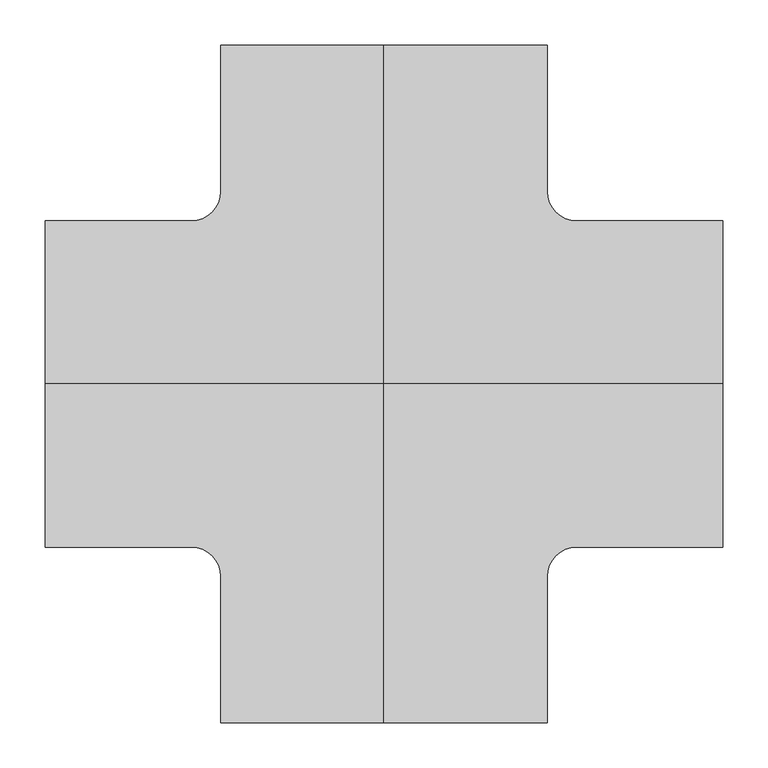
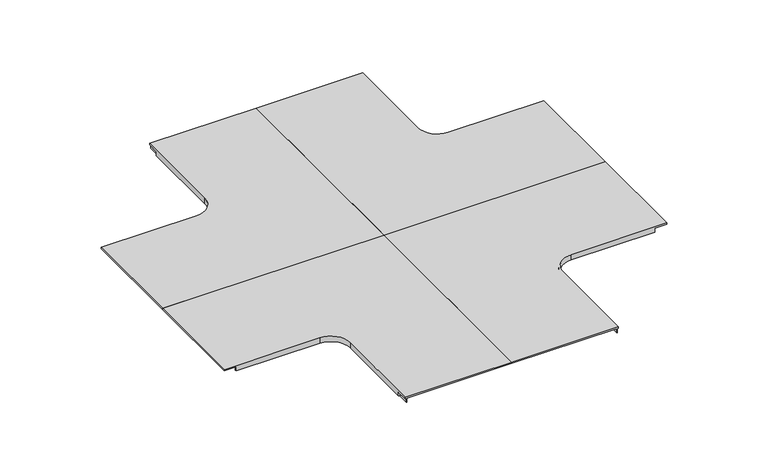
"""IFC4 building model written with IfcOpenShell, lengths in millimetres: cable carrier fitting geometry, CCT_Hyperline_FBTR-CRS-CVR_Крышка на ответвитель крестообразный пластиковый : Крышка на ответвитель крестообразный пластиковый."""

import ifcopenshell
import ifcopenshell.guid

model = None  # the IFC model being written
_history = None  # IfcOwnerHistory: only IFC2X3 demands one
_inside = {}  # id of a spatial element -> (the spatial element, [elements in it])
_under = {}  # id of a project, library or spatial element -> (it, [spatial elements below it])
_declared = {}  # id of a project -> (the project, [libraries it declares])
_typed = {}  # id of a type object -> (the type object, [elements of that type])
_made_of = {}  # id of a material, layer set ... -> (it, [elements and type objects made of it])


def new_model(schema):
    """Start an empty IFC model of exactly this schema.

    Asked for "IFC4X3", IfcOpenShell would pick the latest addendum, in which some entities
    have other attributes; the version numbers below select the first issue.
    IFC2X3 requires an IfcOwnerHistory on every rooted entity: one is made here for all.
    """
    global model, _history
    if schema == "IFC4X3":
        model = ifcopenshell.file(schema_version=(4, 3, 0, 0))
    else:
        model = ifcopenshell.file(schema=schema)
    _inside.clear()
    _under.clear()
    _declared.clear()
    _typed.clear()
    _made_of.clear()
    _history = None
    if model.schema == "IFC2X3":
        org = make("IfcOrganization", Name="unknown")
        user = make(
            "IfcPersonAndOrganization",
            ThePerson=make("IfcPerson", FamilyName="unknown"),
            TheOrganization=org,
        )
        app = make(
            "IfcApplication",
            ApplicationDeveloper=org,
            Version="unknown",
            ApplicationFullName="unknown",
            ApplicationIdentifier="unknown",
        )
        _history = make(
            "IfcOwnerHistory",
            OwningUser=user,
            OwningApplication=app,
            ChangeAction="ADDED",
            CreationDate=0,
        )
    return model


def make(cls, **values):
    """One entity of the class cls with the attributes given. An attribute that is None is left unset."""
    return model.create_entity(
        cls, **{name: value for name, value in values.items() if value is not None}
    )


def rooted(cls, **values):
    """An entity with a GlobalId (a new one), such as an element, a storey or a relation."""
    return make(cls, GlobalId=ifcopenshell.guid.new(), OwnerHistory=_history, **values)


def si_unit(unit_type, name, prefix=None):
    """IfcSIUnit, for example si_unit("LENGTHUNIT", "METRE", prefix="MILLI")."""
    return make("IfcSIUnit", UnitType=unit_type, Prefix=prefix, Name=name)


def assignment(units):
    """IfcUnitAssignment: the units of a project."""
    return None if units is None else make("IfcUnitAssignment", Units=units)


def point(xyz):
    """IfcCartesianPoint."""
    return None if xyz is None else make("IfcCartesianPoint", Coordinates=xyz)


def direction(xyz):
    """IfcDirection."""
    return None if xyz is None else make("IfcDirection", DirectionRatios=xyz)


def frame(location, z_axis=None, x_axis=None):
    """IfcAxis2Placement3D, a coordinate frame: its origin and axes. An axis left out is left unset."""
    return make(
        "IfcAxis2Placement3D",
        Location=point(location),
        Axis=direction(z_axis),
        RefDirection=direction(x_axis),
    )


def origin():
    """The frame at (0, 0, 0) with its axes left unset."""
    return frame((0.0, 0.0, 0.0))


def place(relative_to, where):
    """IfcLocalPlacement: puts the frame where relative to a parent placement (None: the world)."""
    return make(
        "IfcLocalPlacement", PlacementRelTo=relative_to, RelativePlacement=where
    )


def context(
    kind, dimensions, precision=None, world=None, true_north=None, identifier=None
):
    """IfcGeometricRepresentationContext, for example the 3D "Model" context."""
    return make(
        "IfcGeometricRepresentationContext",
        ContextIdentifier=identifier,
        ContextType=kind,
        CoordinateSpaceDimension=dimensions,
        Precision=precision,
        WorldCoordinateSystem=world,
        TrueNorth=true_north,
    )


def project(units=None, contexts=None):
    """IfcProject with its units and contexts."""
    return rooted(
        "IfcProject",
        Name="project",
        RepresentationContexts=contexts,
        UnitsInContext=assignment(units),
    )


def spatial(cls, under=None, at=None, **own):
    """A site, building, storey or space (cls), placed at a placement, below another one or the project."""
    s = rooted(cls, ObjectPlacement=at, **own)
    if under is not None:
        _under.setdefault(under.id(), (under, []))[1].append(s)
    return s


def polyline(points):
    """IfcPolyline through the points."""
    return make("IfcPolyline", Points=[point(p) for p in points])


def circle_curve(where, radius):
    """IfcCircle in the frame where."""
    return make("IfcCircle", Position=where, Radius=radius)


def shape(context_of_items, identifier, shape_type, items):
    """IfcShapeRepresentation: the items that make up one representation, for example the "Body"."""
    return make(
        "IfcShapeRepresentation",
        ContextOfItems=context_of_items,
        RepresentationIdentifier=identifier,
        RepresentationType=shape_type,
        Items=items,
    )


def source(mapping_origin, context_of_items, identifier, shape_type, items):
    """IfcRepresentationMap: a shape defined once, which mapped items show again and again."""
    return make(
        "IfcRepresentationMap",
        MappingOrigin=mapping_origin,
        MappedRepresentation=shape(context_of_items, identifier, shape_type, items),
    )


def transform(
    local_origin,
    x_axis=None,
    y_axis=None,
    z_axis=None,
    scale=None,
    scale2=None,
    scale3=None,
    uniform=True,
):
    """IfcCartesianTransformationOperator3D, or its non-uniform kind. x_axis, y_axis, z_axis: its Axis1, 2, 3."""
    if uniform:
        return make(
            "IfcCartesianTransformationOperator3D",
            Axis1=direction(x_axis),
            Axis2=direction(y_axis),
            LocalOrigin=point(local_origin),
            Scale=scale,
            Axis3=direction(z_axis),
        )
    return make(
        "IfcCartesianTransformationOperator3DnonUniform",
        Axis1=direction(x_axis),
        Axis2=direction(y_axis),
        LocalOrigin=point(local_origin),
        Scale=scale,
        Axis3=direction(z_axis),
        Scale2=scale2,
        Scale3=scale3,
    )


def mapped(mapping_source, mapping_target):
    """IfcMappedItem: shows the shape of a source again, moved by a transform."""
    return make(
        "IfcMappedItem", MappingSource=mapping_source, MappingTarget=mapping_target
    )


def made_of(thing, what):
    """Note that an element or type object is made of a material, layer set ...; save() writes the relation."""
    if what is not None:
        _made_of.setdefault(what.id(), (what, []))[1].append(thing)
    return thing


def element(
    cls,
    number,
    at=None,
    inside=None,
    cuts=None,
    type_object=None,
    material=None,
    context=None,
    identifier="Body",
    shape_type=None,
    held_by="IfcProductDefinitionShape",
    body=None,
    shapes=None,
    **own,
):
    """One element of the class cls, such as IfcWall. Its Tag is "e" and its number.

    at: its placement. inside: the storey or other place that contains it. cuts: it is an
    opening in that element (IfcRelVoidsElement). A single representation is given by context,
    identifier, shape_type and body (its items); several are given by shapes. held_by: the class
    of the entity that holds the representations. save() writes the other relations.
    """
    e = rooted(cls, Tag="e%d" % number, ObjectPlacement=at, **own)
    if body is not None:
        shapes = [shape(context, identifier, shape_type, body)]
    if shapes is not None:
        e.Representation = make(held_by, Representations=shapes)
    if inside is not None:
        _inside.setdefault(inside.id(), (inside, []))[1].append(e)
    if cuts is not None:
        rooted(
            "IfcRelVoidsElement", RelatingBuildingElement=cuts, RelatedOpeningElement=e
        )
    if type_object is not None:
        _typed.setdefault(type_object.id(), (type_object, []))[1].append(e)
    return made_of(e, material)


def aggregate(whole, parts):
    """IfcRelAggregates: a whole, such as a stair, and the parts it consists of."""
    return rooted("IfcRelAggregates", RelatingObject=whole, RelatedObjects=parts)


def save(model, path):
    """Write the relations noted so far, then the file.

    IfcRelAggregates (storeys below a building ...), IfcRelContainedInSpatialStructure (elements
    in a storey), IfcRelDefinesByType, IfcRelAssociatesMaterial and IfcRelDeclares: one each for
    every whole, place, type object, material and project.
    """
    for whole, parts in _under.values():
        aggregate(whole, parts)
    for where, things in _inside.values():
        rooted(
            "IfcRelContainedInSpatialStructure",
            RelatedElements=things,
            RelatingStructure=where,
        )
    for kind, things in _typed.values():
        rooted("IfcRelDefinesByType", RelatedObjects=things, RelatingType=kind)
    for what, things in _made_of.values():
        rooted("IfcRelAssociatesMaterial", RelatedObjects=things, RelatingMaterial=what)
    for by, libraries in _declared.values():
        rooted("IfcRelDeclares", RelatingContext=by, RelatedDefinitions=libraries)
    model.write(path)


def plane_surface(at):
    """IfcPlane: the flat surface through the origin of the frame at, square to its z axis."""
    return make("IfcPlane", Position=at)


def cylinder_surface(at, radius):
    """IfcCylindricalSurface: all points at the distance radius from the z axis of the frame at."""
    return make("IfcCylindricalSurface", Position=at, Radius=radius)


def revolved_surface(curve, axis_point, axis_direction):
    """IfcSurfaceOfRevolution: the curve turned about the line through axis_point along axis_direction."""
    return make(
        "IfcSurfaceOfRevolution",
        SweptCurve=make("IfcArbitraryOpenProfileDef", ProfileType="CURVE", Curve=curve),
        AxisPosition=make("IfcAxis1Placement", Location=point(axis_point), Axis=direction(axis_direction)),
    )


def advanced_brep(points, edges, surfaces, faces):
    """IfcAdvancedBrep: a solid bounded by faces that lie on surfaces and meet in shared edges.

    An edge is (start, end): straight between two places in points (the first is 0);
    or (start, end, curve); or (start, end, curve, False) where it runs against its curve.
    A face is (place in surfaces, loops), or (place, loops, False) where it looks against
    its surface's normal. A loop lists edges by number (the first is 1), with a minus sign
    where the edge is run from its end to its start. The first loop is the outer one.
    """
    corners = [point(p) for p in points]
    vertices = [make("IfcVertexPoint", VertexGeometry=c) for c in corners]
    made = []
    for start, end, *more in edges:
        made.append(
            make(
                "IfcEdgeCurve",
                EdgeStart=vertices[start],
                EdgeEnd=vertices[end],
                EdgeGeometry=more[0] if more else make("IfcPolyline", Points=[corners[start], corners[end]]),
                SameSense=more[1] if len(more) > 1 else True,
            )
        )
    hull = []
    for where, loops, *sense in faces:
        bounds = []
        for j, loop in enumerate(loops):
            ring = [make("IfcOrientedEdge", EdgeElement=made[abs(k) - 1], Orientation=k > 0) for k in loop]
            bounds.append(
                make(
                    "IfcFaceOuterBound" if j == 0 else "IfcFaceBound",
                    Bound=make("IfcEdgeLoop", EdgeList=ring),
                    Orientation=True,
                )
            )
        hull.append(make("IfcAdvancedFace", Bounds=bounds, FaceSurface=surfaces[where], SameSense=sense[0] if sense else True))
    return make("IfcAdvancedBrep", Outer=make("IfcClosedShell", CfsFaces=hull))


def cable_carrier_fitting_a9126de9(model_context):
    return source(origin(), model_context, "Body", "AdvancedBrep", [
        advanced_brep(
        [(375.0, -180.54, 52.54), (375.0, -180.54, 50.0), (375.0, 0.0, 50.0), (375.0, 0.0, 52.54), (213.0, -178.0, 50.0), (354.6504105, -178.0, 50.0), (354.6504105, -178.0, 43.0), (213.0, -178.0, 43.0), (354.6504105, -180.54, 43.0), (213.0, -180.54, 43.0), (180.54, -213.0, 43.0), (180.54, -355.0, 43.0), (178.46, -355.0, 43.0), (178.46, -375.0, 43.0), (178.0, -375.0, 43.0), (178.0, -213.0, 43.0), (213.0, -180.54, 52.54), (354.6504105, -180.54, 50.0), (178.0, -213.0, 50.0), (180.54, -213.0, 52.54), (0.0, -375.0, 52.54), (0.0, -375.0, 50.0), (178.0, -375.0, 50.0), (178.46, -375.0, 50.0), (180.54, -375.0, 50.0), (180.54, -375.0, 52.54), (180.54, -355.0, 50.0), (0.0, 0.0, 52.54), (0.0, 0.0, 50.0), (178.46, -355.0, 50.0)],
        [
            (0, 1),
            (1, 2),
            (2, 3),
            (3, 0),
            (4, 5),
            (5, 6),
            (6, 7),
            (7, 4),
            (6, 8),
            (8, 9),
            (9, 10, circle_curve(frame((213.0, -213.0, 43.0), z_axis=(0.0, 0.0, 1.0), x_axis=(0.0, 1.0, 0.0)), 32.46)),
            (10, 11),
            (11, 12),
            (12, 13),
            (13, 14),
            (14, 15),
            (15, 7, circle_curve(frame((213.0, -213.0, 43.0), z_axis=(0.0, 0.0, -1.0), x_axis=(0.0, 1.0, 0.0)), 35.0)),
            (16, 9),
            (8, 17),
            (17, 1),
            (0, 16),
            (15, 18),
            (18, 4, circle_curve(frame((213.0, -213.0, 50.0), z_axis=(0.0, 0.0, -1.0), x_axis=(0.0, 1.0, 0.0)), 35.0)),
            (19, 10),
            (16, 19, circle_curve(frame((213.0, -213.0, 52.54), z_axis=(0.0, 0.0, 1.0), x_axis=(0.0, 1.0, 0.0)), 32.46)),
            (20, 21),
            (21, 22),
            (22, 14),
            (13, 23),
            (23, 24),
            (24, 25),
            (25, 20),
            (22, 18),
            (24, 26),
            (26, 11),
            (19, 25),
            (3, 27),
            (27, 20),
            (2, 28),
            (28, 27),
            (17, 5),
            (21, 28),
            (26, 29),
            (29, 12),
            (29, 23),
        ],
        [
            plane_surface(frame((375.0, -178.0, 25.0), z_axis=(1.0, 0.0, 0.0), x_axis=(0.0, 0.0, 1.0))),
            plane_surface(frame((375.0, -178.0, 50.0), z_axis=(0.0, 1.0, 0.0), x_axis=(-1.0, 0.0, 0.0))),
            plane_surface(frame((375.0, -178.0, 43.0), z_axis=(0.0, 0.0, -1.0), x_axis=(-1.0, 0.0, 0.0))),
            plane_surface(frame((375.0, -180.54, 43.0), z_axis=(0.0, -1.0, 0.0), x_axis=(-1.0, 0.0, 0.0))),
            cylinder_surface(frame((213.0, -213.0, 25.0), z_axis=(0.0, 0.0, -1.0), x_axis=(0.0, 1.0, 0.0)), 35.0),
            revolved_surface(polyline([(213.0, -180.54, 43.0), (213.0, -180.54, 52.54)]), (213.0, -213.0, 25.0), (0.0, 0.0, -1.0)),
            plane_surface(frame((178.0, -375.0, 25.0), z_axis=(0.0, -1.0, 0.0), x_axis=(0.0, 0.0, 1.0))),
            plane_surface(frame((178.0, -213.0, 50.0), z_axis=(-1.0, 0.0, 0.0), x_axis=(0.0, -1.0, 0.0))),
            plane_surface(frame((180.54, -213.0, 43.0), z_axis=(1.0, 0.0, 0.0), x_axis=(0.0, -1.0, 0.0))),
            plane_surface(frame((375.0, -180.54, 52.54), z_axis=(0.0, 0.0, 1.0), x_axis=(-1.0, 0.0, 0.0))),
            plane_surface(frame((375.0, 0.0, 52.54), z_axis=(0.0, 1.0, 0.0), x_axis=(-1.0, 0.0, 0.0))),
            plane_surface(frame((375.0, 0.0, 50.0), z_axis=(0.0, 0.0, -1.0), x_axis=(-1.0, 0.0, 0.0))),
            plane_surface(frame((0.0, -213.0, 52.54), z_axis=(-1.0, 0.0, 0.0), x_axis=(0.0, -1.0, 0.0))),
            plane_surface(frame((354.6504105, -180.54, 43.0), z_axis=(1.0, 0.0, 0.0), x_axis=(0.0, 1.0, 0.0))),
            plane_surface(frame((178.46, -355.0, 43.0), z_axis=(0.0, -1.0, 0.0), x_axis=(1.0, 0.0, 0.0))),
            plane_surface(frame((178.46, -375.0, 50.0), z_axis=(1.0, 0.0, 0.0), x_axis=(0.0, -1.0, 0.0))),
            plane_surface(frame((178.46, -355.0, 50.0), z_axis=(0.0, 0.0, -1.0), x_axis=(1.0, 0.0, 0.0))),
        ],
        [
            (0, [[1, 2, 3, 4]]),
            (1, [[5, 6, 7, 8]]),
            (2, [[-7, 9, 10, 11, 12, 13, 14, 15, 16, 17]]),
            (3, [[18, -10, 19, 20, -1, 21]]),
            (4, [[-8, -17, 22, 23]]),
            (5, [[24, -11, -18, 25]]),
            (6, [[26, 27, 28, -15, 29, 30, 31, 32]]),
            (7, [[-22, -16, -28, 33]]),
            (8, [[-31, 34, 35, -12, -24, 36]]),
            (9, [[37, 38, -32, -36, -25, -21, -4]]),
            (10, [[39, 40, -37, -3]]),
            (11, [[-2, -20, 41, -5, -23, -33, -27, 42, -39]]),
            (12, [[-40, -42, -26, -38]]),
            (13, [[-19, -9, -6, -41]]),
            (14, [[-13, -35, 43, 44]]),
            (15, [[45, -29, -14, -44]]),
            (16, [[-43, -34, -30, -45]]),
        ],
    ),
        advanced_brep(
        [(375.0, 180.54, 52.54), (375.0, 0.0, 52.54), (375.0, 0.0, 50.0), (375.0, 180.54, 50.0), (213.0, 178.0, 50.0), (213.0, 178.0, 43.0), (354.6504105, 178.0, 43.0), (354.6504105, 178.0, 50.0), (178.0, 213.0, 43.0), (178.0, 375.0, 43.0), (178.46, 375.0, 43.0), (178.46, 355.0, 43.0), (180.54, 355.0, 43.0), (180.54, 213.0, 43.0), (213.0, 180.54, 43.0), (354.6504105, 180.54, 43.0), (213.0, 180.54, 52.54), (354.6504105, 180.54, 50.0), (178.0, 213.0, 50.0), (180.54, 213.0, 52.54), (0.0, 375.0, 52.54), (180.54, 375.0, 52.54), (180.54, 375.0, 50.0), (178.46, 375.0, 50.0), (178.0, 375.0, 50.0), (0.0, 375.0, 50.0), (180.54, 355.0, 50.0), (0.0, 0.0, 52.54), (0.0, 0.0, 50.0), (178.46, 355.0, 50.0)],
        [
            (0, 1),
            (1, 2),
            (2, 3),
            (3, 0),
            (4, 5),
            (5, 6),
            (6, 7),
            (7, 4),
            (5, 8, circle_curve(frame((213.0, 213.0, 43.0), z_axis=(0.0, 0.0, -1.0), x_axis=(0.0, -1.0, 0.0)), 35.0)),
            (8, 9),
            (9, 10),
            (10, 11),
            (11, 12),
            (12, 13),
            (13, 14, circle_curve(frame((213.0, 213.0, 43.0), z_axis=(0.0, 0.0, 1.0), x_axis=(0.0, -1.0, 0.0)), 32.46)),
            (14, 15),
            (15, 6),
            (16, 0),
            (3, 17),
            (17, 15),
            (14, 16),
            (4, 18, circle_curve(frame((213.0, 213.0, 50.0), z_axis=(0.0, 0.0, -1.0), x_axis=(0.0, -1.0, 0.0)), 35.0)),
            (18, 8),
            (19, 16, circle_curve(frame((213.0, 213.0, 52.54), z_axis=(0.0, 0.0, 1.0), x_axis=(0.0, -1.0, 0.0)), 32.46)),
            (13, 19),
            (20, 21),
            (21, 22),
            (22, 23),
            (23, 10),
            (9, 24),
            (24, 25),
            (25, 20),
            (18, 24),
            (21, 19),
            (12, 26),
            (26, 22),
            (20, 27),
            (27, 1),
            (27, 28),
            (28, 2),
            (28, 25),
            (7, 17),
            (11, 29),
            (29, 26),
            (23, 29),
        ],
        [
            plane_surface(frame((375.0, 178.0, 25.0), z_axis=(1.0, 0.0, 0.0), x_axis=(0.0, 0.0, 1.0))),
            plane_surface(frame((375.0, 178.0, 50.0), z_axis=(0.0, -1.0, 0.0), x_axis=(-1.0, 0.0, 0.0))),
            plane_surface(frame((375.0, 178.0, 43.0), z_axis=(0.0, 0.0, -1.0), x_axis=(-1.0, 0.0, 0.0))),
            plane_surface(frame((375.0, 180.54, 43.0), z_axis=(0.0, 1.0, 0.0), x_axis=(-1.0, 0.0, 0.0))),
            cylinder_surface(frame((213.0, 213.0, 25.0), z_axis=(0.0, 0.0, -1.0), x_axis=(0.0, -1.0, 0.0)), 35.0),
            revolved_surface(polyline([(213.0, 180.54, 43.0), (213.0, 180.54, 52.54)]), (213.0, 213.0, 25.0), (0.0, 0.0, -1.0)),
            plane_surface(frame((178.0, 375.0, 25.0), z_axis=(0.0, 1.0, 0.0), x_axis=(0.0, 0.0, 1.0))),
            plane_surface(frame((178.0, 213.0, 50.0), z_axis=(-1.0, 0.0, 0.0), x_axis=(0.0, 1.0, 0.0))),
            plane_surface(frame((180.54, 213.0, 43.0), z_axis=(1.0, 0.0, 0.0), x_axis=(0.0, 1.0, 0.0))),
            plane_surface(frame((375.0, 180.54, 52.54), z_axis=(0.0, 0.0, 1.0), x_axis=(-1.0, 0.0, 0.0))),
            plane_surface(frame((375.0, 0.0, 52.54), z_axis=(0.0, -1.0, 0.0), x_axis=(-1.0, 0.0, 0.0))),
            plane_surface(frame((375.0, 0.0, 50.0), z_axis=(0.0, 0.0, -1.0), x_axis=(-1.0, 0.0, 0.0))),
            plane_surface(frame((0.0, 213.0, 52.54), z_axis=(-1.0, 0.0, 0.0), x_axis=(0.0, 1.0, 0.0))),
            plane_surface(frame((354.6504105, 180.54, 43.0), z_axis=(1.0, 0.0, 0.0), x_axis=(0.0, -1.0, 0.0))),
            plane_surface(frame((178.46, 355.0, 43.0), z_axis=(0.0, 1.0, 0.0), x_axis=(1.0, 0.0, 0.0))),
            plane_surface(frame((178.46, 375.0, 50.0), z_axis=(1.0, 0.0, 0.0), x_axis=(0.0, 1.0, 0.0))),
            plane_surface(frame((178.46, 355.0, 50.0), z_axis=(0.0, 0.0, -1.0), x_axis=(1.0, 0.0, 0.0))),
        ],
        [
            (0, [[1, 2, 3, 4]]),
            (1, [[5, 6, 7, 8]]),
            (2, [[9, 10, 11, 12, 13, 14, 15, 16, 17, -6]]),
            (3, [[18, -4, 19, 20, -16, 21]]),
            (4, [[22, 23, -9, -5]]),
            (5, [[24, -21, -15, 25]]),
            (6, [[26, 27, 28, 29, -11, 30, 31, 32]]),
            (7, [[33, -30, -10, -23]]),
            (8, [[34, -25, -14, 35, 36, -27]]),
            (9, [[-1, -18, -24, -34, -26, 37, 38]]),
            (10, [[-2, -38, 39, 40]]),
            (11, [[-40, 41, -31, -33, -22, -8, 42, -19, -3]]),
            (12, [[-37, -32, -41, -39]]),
            (13, [[-42, -7, -17, -20]]),
            (14, [[43, 44, -35, -13]]),
            (15, [[-43, -12, -29, 45]]),
            (16, [[-45, -28, -36, -44]]),
        ],
    ),
        advanced_brep(
        [(-375.0, -180.54, 52.54), (-375.0, 0.0, 52.54), (-375.0, 0.0, 50.0), (-375.0, -180.54, 50.0), (-213.0, -178.0, 50.0), (-213.0, -178.0, 43.0), (-354.6504105, -178.0, 43.0), (-354.6504105, -178.0, 50.0), (-178.0, -213.0, 43.0), (-178.0, -375.0, 43.0), (-178.46, -375.0, 43.0), (-178.46, -355.0, 43.0), (-180.54, -355.0, 43.0), (-180.54, -213.0, 43.0), (-213.0, -180.54, 43.0), (-354.6504105, -180.54, 43.0), (-213.0, -180.54, 52.54), (-354.6504105, -180.54, 50.0), (-178.0, -213.0, 50.0), (-180.54, -213.0, 52.54), (0.0, -375.0, 52.54), (-180.54, -375.0, 52.54), (-180.54, -375.0, 50.0), (-178.46, -375.0, 50.0), (-178.0, -375.0, 50.0), (0.0, -375.0, 50.0), (-180.54, -355.0, 50.0), (0.0, 0.0, 52.54), (0.0, 0.0, 50.0), (-178.46, -355.0, 50.0)],
        [
            (0, 1),
            (1, 2),
            (2, 3),
            (3, 0),
            (4, 5),
            (5, 6),
            (6, 7),
            (7, 4),
            (5, 8, circle_curve(frame((-213.0, -213.0, 43.0), z_axis=(0.0, 0.0, -1.0), x_axis=(0.0, 1.0, 0.0)), 35.0)),
            (8, 9),
            (9, 10),
            (10, 11),
            (11, 12),
            (12, 13),
            (13, 14, circle_curve(frame((-213.0, -213.0, 43.0), z_axis=(0.0, 0.0, 1.0), x_axis=(0.0, 1.0, 0.0)), 32.46)),
            (14, 15),
            (15, 6),
            (16, 0),
            (3, 17),
            (17, 15),
            (14, 16),
            (4, 18, circle_curve(frame((-213.0, -213.0, 50.0), z_axis=(0.0, 0.0, -1.0), x_axis=(0.0, 1.0, 0.0)), 35.0)),
            (18, 8),
            (19, 16, circle_curve(frame((-213.0, -213.0, 52.54), z_axis=(0.0, 0.0, 1.0), x_axis=(0.0, 1.0, 0.0)), 32.46)),
            (13, 19),
            (20, 21),
            (21, 22),
            (22, 23),
            (23, 10),
            (9, 24),
            (24, 25),
            (25, 20),
            (18, 24),
            (21, 19),
            (12, 26),
            (26, 22),
            (20, 27),
            (27, 1),
            (27, 28),
            (28, 2),
            (28, 25),
            (7, 17),
            (11, 29),
            (29, 26),
            (23, 29),
        ],
        [
            plane_surface(frame((-375.0, -178.0, 25.0), z_axis=(-1.0, 0.0, 0.0), x_axis=(0.0, 0.0, 1.0))),
            plane_surface(frame((-375.0, -178.0, 50.0), z_axis=(0.0, 1.0, 0.0), x_axis=(1.0, 0.0, 0.0))),
            plane_surface(frame((-375.0, -178.0, 43.0), z_axis=(0.0, 0.0, -1.0), x_axis=(1.0, 0.0, 0.0))),
            plane_surface(frame((-375.0, -180.54, 43.0), z_axis=(0.0, -1.0, 0.0), x_axis=(1.0, 0.0, 0.0))),
            cylinder_surface(frame((-213.0, -213.0, 25.0), z_axis=(0.0, 0.0, -1.0), x_axis=(0.0, 1.0, 0.0)), 35.0),
            revolved_surface(polyline([(-213.0, -180.54, 43.0), (-213.0, -180.54, 52.54)]), (-213.0, -213.0, 25.0), (0.0, 0.0, -1.0)),
            plane_surface(frame((-178.0, -375.0, 25.0), z_axis=(0.0, -1.0, 0.0), x_axis=(0.0, 0.0, 1.0))),
            plane_surface(frame((-178.0, -213.0, 50.0), z_axis=(1.0, 0.0, 0.0), x_axis=(0.0, -1.0, 0.0))),
            plane_surface(frame((-180.54, -213.0, 43.0), z_axis=(-1.0, 0.0, 0.0), x_axis=(0.0, -1.0, 0.0))),
            plane_surface(frame((-375.0, -180.54, 52.54), z_axis=(0.0, 0.0, 1.0), x_axis=(1.0, 0.0, 0.0))),
            plane_surface(frame((-375.0, 0.0, 52.54), z_axis=(0.0, 1.0, 0.0), x_axis=(1.0, 0.0, 0.0))),
            plane_surface(frame((-375.0, 0.0, 50.0), z_axis=(0.0, 0.0, -1.0), x_axis=(1.0, 0.0, 0.0))),
            plane_surface(frame((0.0, -213.0, 52.54), z_axis=(1.0, 0.0, 0.0), x_axis=(0.0, -1.0, 0.0))),
            plane_surface(frame((-354.6504105, -180.54, 43.0), z_axis=(-1.0, 0.0, 0.0), x_axis=(0.0, 1.0, 0.0))),
            plane_surface(frame((-178.46, -355.0, 43.0), z_axis=(0.0, -1.0, 0.0), x_axis=(-1.0, 0.0, 0.0))),
            plane_surface(frame((-178.46, -375.0, 50.0), z_axis=(-1.0, 0.0, 0.0), x_axis=(0.0, -1.0, 0.0))),
            plane_surface(frame((-178.46, -355.0, 50.0), z_axis=(0.0, 0.0, -1.0), x_axis=(-1.0, 0.0, 0.0))),
        ],
        [
            (0, [[1, 2, 3, 4]]),
            (1, [[5, 6, 7, 8]]),
            (2, [[9, 10, 11, 12, 13, 14, 15, 16, 17, -6]]),
            (3, [[18, -4, 19, 20, -16, 21]]),
            (4, [[22, 23, -9, -5]]),
            (5, [[24, -21, -15, 25]]),
            (6, [[26, 27, 28, 29, -11, 30, 31, 32]]),
            (7, [[33, -30, -10, -23]]),
            (8, [[34, -25, -14, 35, 36, -27]]),
            (9, [[-1, -18, -24, -34, -26, 37, 38]]),
            (10, [[-2, -38, 39, 40]]),
            (11, [[-40, 41, -31, -33, -22, -8, 42, -19, -3]]),
            (12, [[-37, -32, -41, -39]]),
            (13, [[-42, -7, -17, -20]]),
            (14, [[43, 44, -35, -13]]),
            (15, [[-43, -12, -29, 45]]),
            (16, [[-45, -28, -36, -44]]),
        ],
    ),
        advanced_brep(
        [(-375.0, 180.54, 52.54), (-375.0, 180.54, 50.0), (-375.0, 0.0, 50.0), (-375.0, 0.0, 52.54), (-213.0, 178.0, 50.0), (-354.6504105, 178.0, 50.0), (-354.6504105, 178.0, 43.0), (-213.0, 178.0, 43.0), (-354.6504105, 180.54, 43.0), (-213.0, 180.54, 43.0), (-180.54, 213.0, 43.0), (-180.54, 355.0, 43.0), (-178.46, 355.0, 43.0), (-178.46, 375.0, 43.0), (-178.0, 375.0, 43.0), (-178.0, 213.0, 43.0), (-213.0, 180.54, 52.54), (-354.6504105, 180.54, 50.0), (-178.0, 213.0, 50.0), (-180.54, 213.0, 52.54), (0.0, 375.0, 52.54), (0.0, 375.0, 50.0), (-178.0, 375.0, 50.0), (-178.46, 375.0, 50.0), (-180.54, 375.0, 50.0), (-180.54, 375.0, 52.54), (-180.54, 355.0, 50.0), (0.0, 0.0, 52.54), (0.0, 0.0, 50.0), (-178.46, 355.0, 50.0)],
        [
            (0, 1),
            (1, 2),
            (2, 3),
            (3, 0),
            (4, 5),
            (5, 6),
            (6, 7),
            (7, 4),
            (6, 8),
            (8, 9),
            (9, 10, circle_curve(frame((-213.0, 213.0, 43.0), z_axis=(0.0, 0.0, 1.0), x_axis=(0.0, -1.0, 0.0)), 32.46)),
            (10, 11),
            (11, 12),
            (12, 13),
            (13, 14),
            (14, 15),
            (15, 7, circle_curve(frame((-213.0, 213.0, 43.0), z_axis=(0.0, 0.0, -1.0), x_axis=(0.0, -1.0, 0.0)), 35.0)),
            (16, 9),
            (8, 17),
            (17, 1),
            (0, 16),
            (15, 18),
            (18, 4, circle_curve(frame((-213.0, 213.0, 50.0), z_axis=(0.0, 0.0, -1.0), x_axis=(0.0, -1.0, 0.0)), 35.0)),
            (19, 10),
            (16, 19, circle_curve(frame((-213.0, 213.0, 52.54), z_axis=(0.0, 0.0, 1.0), x_axis=(0.0, -1.0, 0.0)), 32.46)),
            (20, 21),
            (21, 22),
            (22, 14),
            (13, 23),
            (23, 24),
            (24, 25),
            (25, 20),
            (22, 18),
            (24, 26),
            (26, 11),
            (19, 25),
            (3, 27),
            (27, 20),
            (2, 28),
            (28, 27),
            (17, 5),
            (21, 28),
            (26, 29),
            (29, 12),
            (29, 23),
        ],
        [
            plane_surface(frame((-375.0, 178.0, 25.0), z_axis=(-1.0, 0.0, 0.0), x_axis=(0.0, 0.0, 1.0))),
            plane_surface(frame((-375.0, 178.0, 50.0), z_axis=(0.0, -1.0, 0.0), x_axis=(1.0, 0.0, 0.0))),
            plane_surface(frame((-375.0, 178.0, 43.0), z_axis=(0.0, 0.0, -1.0), x_axis=(1.0, 0.0, 0.0))),
            plane_surface(frame((-375.0, 180.54, 43.0), z_axis=(0.0, 1.0, 0.0), x_axis=(1.0, 0.0, 0.0))),
            cylinder_surface(frame((-213.0, 213.0, 25.0), z_axis=(0.0, 0.0, -1.0), x_axis=(0.0, -1.0, 0.0)), 35.0),
            revolved_surface(polyline([(-213.0, 180.54, 43.0), (-213.0, 180.54, 52.54)]), (-213.0, 213.0, 25.0), (0.0, 0.0, -1.0)),
            plane_surface(frame((-178.0, 375.0, 25.0), z_axis=(0.0, 1.0, 0.0), x_axis=(0.0, 0.0, 1.0))),
            plane_surface(frame((-178.0, 213.0, 50.0), z_axis=(1.0, 0.0, 0.0), x_axis=(0.0, 1.0, 0.0))),
            plane_surface(frame((-180.54, 213.0, 43.0), z_axis=(-1.0, 0.0, 0.0), x_axis=(0.0, 1.0, 0.0))),
            plane_surface(frame((-375.0, 180.54, 52.54), z_axis=(0.0, 0.0, 1.0), x_axis=(1.0, 0.0, 0.0))),
            plane_surface(frame((-375.0, 0.0, 52.54), z_axis=(0.0, -1.0, 0.0), x_axis=(1.0, 0.0, 0.0))),
            plane_surface(frame((-375.0, 0.0, 50.0), z_axis=(0.0, 0.0, -1.0), x_axis=(1.0, 0.0, 0.0))),
            plane_surface(frame((0.0, 213.0, 52.54), z_axis=(1.0, 0.0, 0.0), x_axis=(0.0, 1.0, 0.0))),
            plane_surface(frame((-354.6504105, 180.54, 43.0), z_axis=(-1.0, 0.0, 0.0), x_axis=(0.0, -1.0, 0.0))),
            plane_surface(frame((-178.46, 355.0, 43.0), z_axis=(0.0, 1.0, 0.0), x_axis=(-1.0, 0.0, 0.0))),
            plane_surface(frame((-178.46, 375.0, 50.0), z_axis=(-1.0, 0.0, 0.0), x_axis=(0.0, 1.0, 0.0))),
            plane_surface(frame((-178.46, 355.0, 50.0), z_axis=(0.0, 0.0, -1.0), x_axis=(-1.0, 0.0, 0.0))),
        ],
        [
            (0, [[1, 2, 3, 4]]),
            (1, [[5, 6, 7, 8]]),
            (2, [[-7, 9, 10, 11, 12, 13, 14, 15, 16, 17]]),
            (3, [[18, -10, 19, 20, -1, 21]]),
            (4, [[-8, -17, 22, 23]]),
            (5, [[24, -11, -18, 25]]),
            (6, [[26, 27, 28, -15, 29, 30, 31, 32]]),
            (7, [[-22, -16, -28, 33]]),
            (8, [[-31, 34, 35, -12, -24, 36]]),
            (9, [[37, 38, -32, -36, -25, -21, -4]]),
            (10, [[39, 40, -37, -3]]),
            (11, [[-2, -20, 41, -5, -23, -33, -27, 42, -39]]),
            (12, [[-40, -42, -26, -38]]),
            (13, [[-19, -9, -6, -41]]),
            (14, [[-13, -35, 43, 44]]),
            (15, [[45, -29, -14, -44]]),
            (16, [[-43, -34, -30, -45]]),
        ],
    ),
    ])


if __name__ == "__main__":
    model = new_model("IFC4")
    model_context = context("Model", 3, world=origin())
    ifc_project = project(units=[si_unit("LENGTHUNIT", "METRE", prefix="MILLI")], contexts=[model_context])
    site = spatial("IfcSite", under=ifc_project)
    building = spatial("IfcBuilding", under=site)
    placement = place(None, origin())
    cable_carrier_fitting_shape = cable_carrier_fitting_a9126de9(model_context)
    element("IfcCableCarrierFitting", 1, ObjectType="CCT_Hyperline_FBTR-CRS-CVR_Крышка на ответвитель крестообразный пластиковый : Крышка на ответвитель крестообразный пластиковый", at=placement, inside=building, context=model_context, shape_type="MappedRepresentation", body=[
        mapped(cable_carrier_fitting_shape, transform((0.0, 0.0, 0.0), x_axis=(1.0, 0.0, 0.0), y_axis=(0.0, 1.0, 0.0), z_axis=(0.0, 0.0, 1.0))),
    ])
    save(model, "model.ifc")
